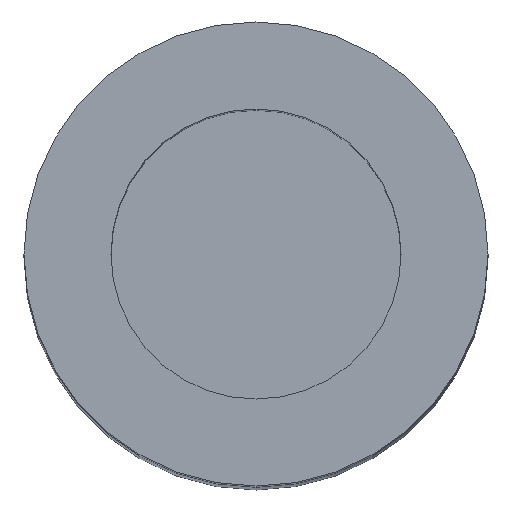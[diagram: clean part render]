
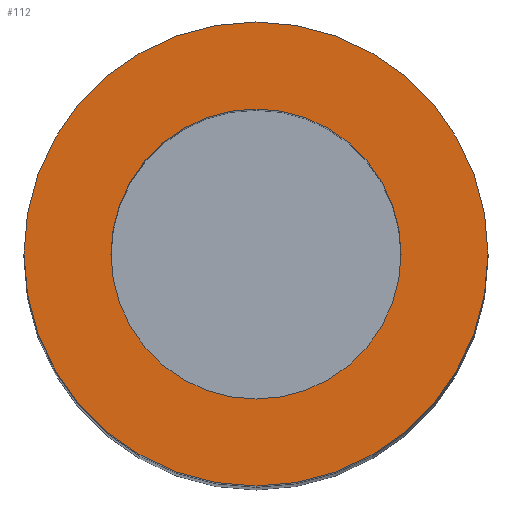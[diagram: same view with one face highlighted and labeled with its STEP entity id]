
A CAD part, top view. The second image highlights one B-rep face of the part: STEP entity #112.
In plain terms, the highlighted planar face has unit normal (0, 0, 1).
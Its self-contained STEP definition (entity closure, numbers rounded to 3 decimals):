
#99=PLANE('',#310);
#104=FACE_BOUND('',#147,.T.);
#105=FACE_BOUND('',#148,.T.);
#112=ADVANCED_FACE('',(#104,#105),#99,.T.);
#147=EDGE_LOOP('',(#191,#192));
#148=EDGE_LOOP('',(#193,#194));
#163=CIRCLE('',#302,2.5);
#166=CIRCLE('',#306,2.5);
#167=CIRCLE('',#308,4.);
#168=CIRCLE('',#309,4.);
#191=ORIENTED_EDGE('',*,*,#263,.F.);
#192=ORIENTED_EDGE('',*,*,#264,.F.);
#193=ORIENTED_EDGE('',*,*,#262,.T.);
#194=ORIENTED_EDGE('',*,*,#258,.T.);
#240=VERTEX_POINT('',#420);
#241=VERTEX_POINT('',#422);
#243=VERTEX_POINT('',#431);
#244=VERTEX_POINT('',#432);
#258=EDGE_CURVE('',#241,#240,#163,.T.);
#262=EDGE_CURVE('',#240,#241,#166,.T.);
#263=EDGE_CURVE('',#243,#244,#167,.T.);
#264=EDGE_CURVE('',#244,#243,#168,.T.);
#302=AXIS2_PLACEMENT_3D('',#421,#340,#341);
#306=AXIS2_PLACEMENT_3D('',#428,#349,#350);
#308=AXIS2_PLACEMENT_3D('',#430,#353,#354);
#309=AXIS2_PLACEMENT_3D('',#433,#355,#356);
#310=AXIS2_PLACEMENT_3D('',#434,#357,#358);
#340=DIRECTION('',(0.,0.,-1.));
#341=DIRECTION('',(1.,0.,0.));
#349=DIRECTION('',(0.,0.,-1.));
#350=DIRECTION('',(-1.,0.,0.));
#353=DIRECTION('',(0.,0.,-1.));
#354=DIRECTION('',(1.,0.,0.));
#355=DIRECTION('',(0.,0.,-1.));
#356=DIRECTION('',(-1.,0.,0.));
#357=DIRECTION('',(0.,0.,1.));
#358=DIRECTION('',(-1.,0.,0.));
#420=CARTESIAN_POINT('',(0.,2.5,0.));
#421=CARTESIAN_POINT('',(0.,0.,0.));
#422=CARTESIAN_POINT('',(0.,-2.5,0.));
#428=CARTESIAN_POINT('',(0.,0.,0.));
#430=CARTESIAN_POINT('',(0.,0.,0.));
#431=CARTESIAN_POINT('',(0.,-4.,0.));
#432=CARTESIAN_POINT('',(0.,4.,0.));
#433=CARTESIAN_POINT('',(0.,0.,0.));
#434=CARTESIAN_POINT('',(0.,0.,0.));
